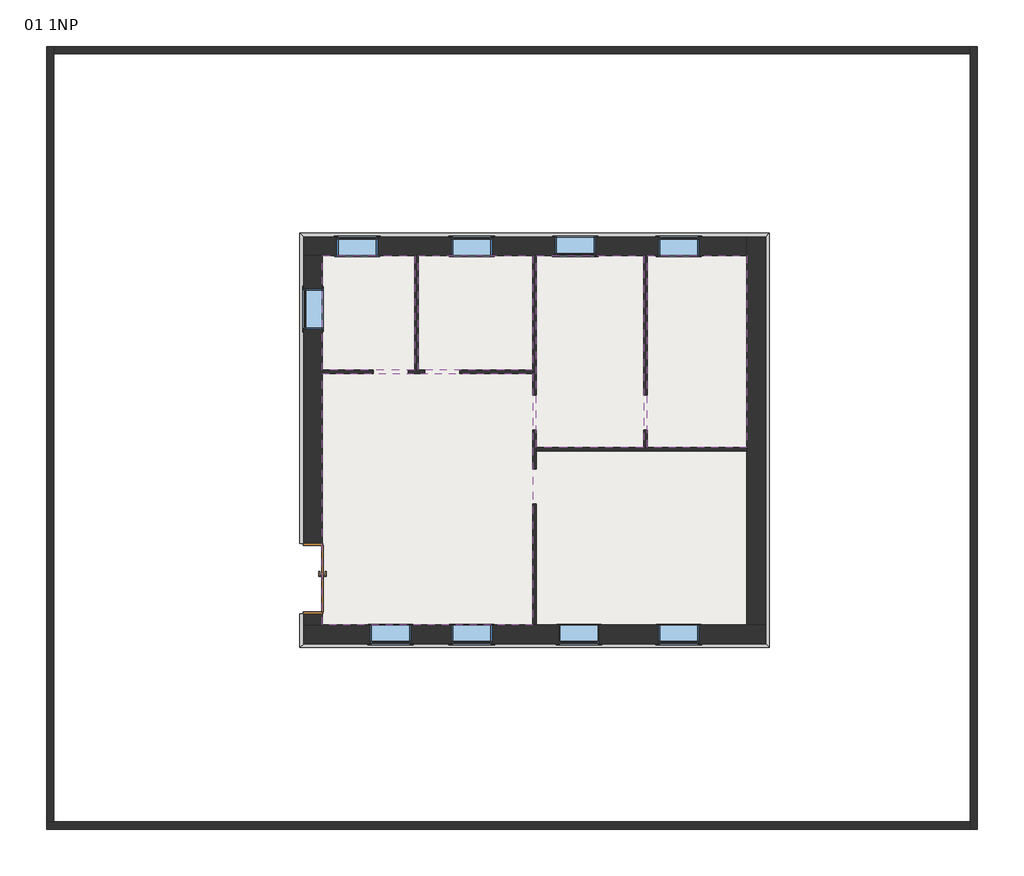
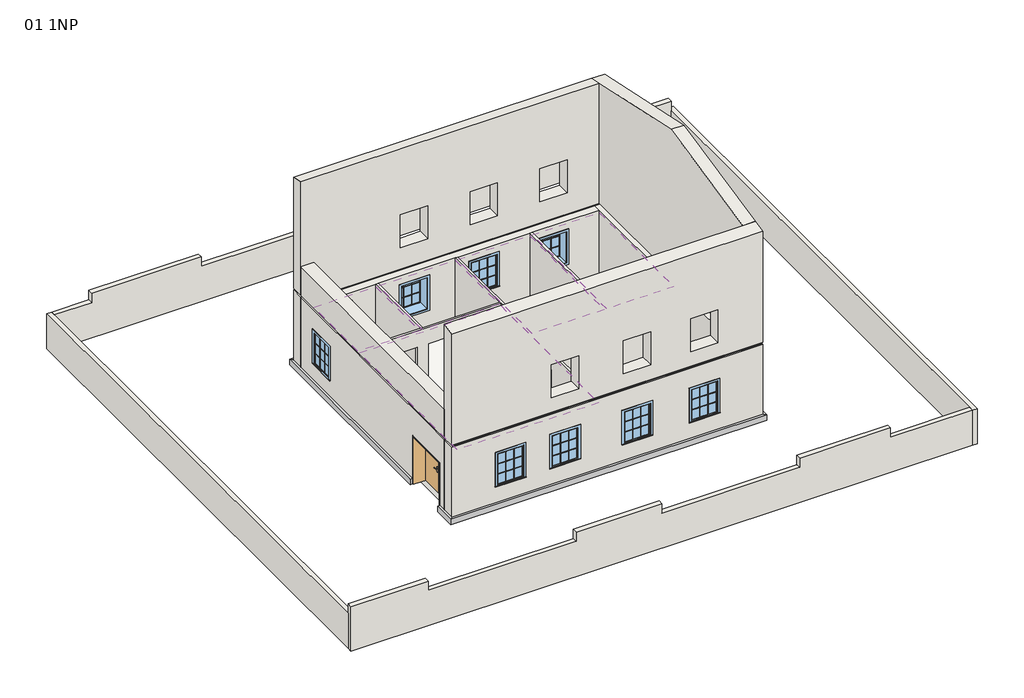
# One storey, incomplete: 13 walls, 9 windows, 6 coverings, 4 proxies, 1 door, 1 slab.
"""IFC4 building model written with IfcOpenShell, lengths in millimetres."""

from ifc_helpers import new_model, si_unit, frame, origin, origin_with_axes, place, context, project, spatial, polyline, outline, extrude, faceted_brep, transform, mapped, element, save
from components import door_1800_x_2000_2bd13d9d, m_casement_3x3_with_trim_1100x1400_47dc13a1, m_casement_3x3_with_trim_1100x1400_3cb4fc06

model = new_model("IFC4")

# Units and contexts
model_context = context("Model", 3, world=origin())
ifc_project = project(units=[si_unit("LENGTHUNIT", "METRE", prefix="MILLI")], contexts=[model_context])

# Site, building, storey
site = spatial("IfcSite", under=ifc_project)
building = spatial("IfcBuilding", under=site)
storey = spatial("IfcBuildingStorey", under=building, Name="01 1NP", Elevation=0.0)

# Proxies
placement = place(None, origin())
element("IfcBuildingElementProxy", 1, Name="Wall Sweeps", at=placement, inside=storey, context=model_context, shape_type="SweptSolid", body=[
    extrude(outline(polyline([(27580.9387685, 14249.5937321), (27683.4387685, 14352.0937321), (40193.4387685, 14352.0937321), (40295.9387685, 14249.5937321), (27580.9387685, 14249.5937321)])), origin_with_axes(), (0.0, 0.0, 1.0), 225.0),
])
element("IfcBuildingElementProxy", 2, Name="Wall Sweeps", at=placement, inside=storey, context=model_context, shape_type="Brep", body=[
    faceted_brep([(27580.9387685, 15167.0937321, 225.0), (27683.4387685, 15167.0937321, 225.0), (27683.4387685, 15167.0937321, 0.0), (27580.9387685, 15167.0937321, 0.0), (27580.9387685, 14249.5937321, 225.0), (27580.9387685, 14249.5937321, 0.0), (27683.4387685, 14352.0937321, 0.0), (27683.4387685, 14352.0937321, 225.0), (27683.4387685, 14862.0937321, 0.0)], [[[0, 1, 2, 3]], [[4, 5, 6, 7]], [[1, 0, 4, 7]], [[2, 1, 7, 6, 8]], [[3, 2, 8, 6, 5]], [[0, 3, 5, 4]]]),
    faceted_brep([(27580.9387685, 25474.5937321, 225.0), (27683.4387685, 25372.0937321, 225.0), (27683.4387685, 25372.0937321, 0.0), (27580.9387685, 25474.5937321, 0.0), (27580.9387685, 17067.0937321, 225.0), (27580.9387685, 17067.0937321, 0.0), (27683.4387685, 17067.0937321, 0.0), (27683.4387685, 17067.0937321, 225.0), (27683.4387685, 24862.0937321, 0.0)], [[[0, 1, 2, 3]], [[4, 5, 6, 7]], [[1, 0, 4, 7]], [[2, 1, 7, 6, 8]], [[3, 2, 8, 6, 5]], [[0, 3, 5, 4]]]),
])
element("IfcBuildingElementProxy", 3, Name="Wall Sweeps", at=placement, inside=storey, context=model_context, shape_type="Brep", body=[
    faceted_brep([(40295.9387685, 25474.5937321, 225.0), (40193.4387685, 25372.0937321, 225.0), (40193.4387685, 25372.0937321, 0.0), (40295.9387685, 25474.5937321, 0.0), (27580.9387685, 25474.5937321, 225.0), (27580.9387685, 25474.5937321, 0.0), (27683.4387685, 25372.0937321, 0.0), (27683.4387685, 25372.0937321, 225.0), (39683.4387685, 25372.0937321, 0.0)], [[[0, 1, 2, 3]], [[4, 5, 6, 7]], [[1, 0, 4, 7]], [[2, 1, 7, 6, 8]], [[3, 2, 8, 6, 5]], [[0, 3, 5, 4]]]),
])
element("IfcBuildingElementProxy", 4, Name="Wall Sweeps", at=placement, inside=storey, context=model_context, shape_type="Brep", body=[
    faceted_brep([(40295.9387685, 14249.5937321, 225.0), (40193.4387685, 14352.0937321, 225.0), (40193.4387685, 14352.0937321, 0.0), (40295.9387685, 14249.5937321, 0.0), (40295.9387685, 25474.5937321, 225.0), (40295.9387685, 25474.5937321, 0.0), (40193.4387685, 25372.0937321, 0.0), (40193.4387685, 25372.0937321, 225.0), (40193.4387685, 14862.0937321, 0.0)], [[[0, 1, 2, 3]], [[4, 5, 6, 7]], [[1, 0, 4, 7]], [[2, 1, 7, 6, 8]], [[3, 2, 8, 6, 5]], [[0, 3, 5, 4]]]),
])

# Coverings
element("IfcCovering", 5, ObjectType="Strop 1", at=placement, inside=storey, context=model_context, shape_type="SweptSolid", body=[
    extrude(outline(polyline([(30688.4387685, 21767.0937321), (28193.4387685, 21767.0937321), (28193.4387685, 24862.0937321), (30688.4387685, 24862.0937321), (30688.4387685, 21767.0937321)])), frame((0.0, 0.0, 2600.0), z_axis=(0.0, 0.0, 1.0), x_axis=(1.0, 0.0, 0.0)), (0.0, 0.0, 1.0), 100.0),
])
element("IfcCovering", 6, ObjectType="Strop 1", at=placement, inside=storey, context=model_context, shape_type="SweptSolid", body=[
    extrude(outline(polyline([(30688.4387685, 21767.0937321), (28193.4387685, 21767.0937321), (28193.4387685, 24862.0937321), (30688.4387685, 24862.0937321), (30688.4387685, 21767.0937321)])), frame((0.0, 0.0, 2600.0), z_axis=(0.0, 0.0, 1.0), x_axis=(1.0, 0.0, 0.0)), (0.0, 0.0, 1.0), 100.0),
])
element("IfcCovering", 7, ObjectType="Strop 1", at=placement, inside=storey, context=model_context, shape_type="SweptSolid", body=[
    extrude(outline(polyline([(30788.4387685, 21767.0937321), (30788.4387685, 24862.0937321), (33888.4387685, 24862.0937321), (33888.4387685, 21767.0937321), (30788.4387685, 21767.0937321)])), frame((0.0, 0.0, 2600.0), z_axis=(0.0, 0.0, 1.0), x_axis=(1.0, 0.0, 0.0)), (0.0, 0.0, 1.0), 100.0),
])
element("IfcCovering", 8, ObjectType="Strop 1", at=placement, inside=storey, context=model_context, shape_type="SweptSolid", body=[
    extrude(outline(polyline([(33988.4387685, 24862.0937321), (36888.4387685, 24862.0937321), (36888.4387685, 19667.0937321), (33988.4387685, 19667.0937321), (33988.4387685, 24862.0937321)])), frame((0.0, 0.0, 2600.0), z_axis=(0.0, 0.0, 1.0), x_axis=(1.0, 0.0, 0.0)), (0.0, 0.0, 1.0), 100.0),
])
element("IfcCovering", 9, ObjectType="Strop 1", at=placement, inside=storey, context=model_context, shape_type="SweptSolid", body=[
    extrude(outline(polyline([(36988.4387685, 24862.0937321), (39683.4387685, 24862.0937321), (39683.4387685, 19667.0937321), (36988.4387685, 19667.0937321), (36988.4387685, 24862.0937321)])), frame((0.0, 0.0, 2600.0), z_axis=(0.0, 0.0, 1.0), x_axis=(1.0, 0.0, 0.0)), (0.0, 0.0, 1.0), 100.0),
])
element("IfcCovering", 10, ObjectType="Strop 1", at=placement, inside=storey, context=model_context, shape_type="SweptSolid", body=[
    extrude(outline(polyline([(33888.4387685, 21667.0937321), (33888.4387685, 14862.0937321), (28193.4387685, 14862.0937321), (28193.4387685, 21667.0937321), (33888.4387685, 21667.0937321)])), frame((0.0, 0.0, 2600.0), z_axis=(0.0, 0.0, 1.0), x_axis=(1.0, 0.0, 0.0)), (0.0, 0.0, 1.0), 100.0),
])

# Door
door_1800_x_2000_shape = door_1800_x_2000_2bd13d9d(model_context)
element("IfcDoor", 11, ObjectType="Dvoukridle oboustrana zaruben : 1800 x 2000", at=placement, inside=storey, context=model_context, shape_type="MappedRepresentation", body=[
    mapped(door_1800_x_2000_shape, transform((27938.4387685, 16097.0937321, 0.0), x_axis=(0.0, -1.0, 0.0), y_axis=(1.0, 0.0, 0.0), z_axis=(0.0, 0.0, 1.0))),
])

# Slab
element("IfcSlab", 12, ObjectType="Standardní 300 mm", at=placement, inside=storey, context=model_context, shape_type="SweptSolid", body=[
    extrude(outline(polyline([(28183.4387685, 14852.0937321), (28183.4387685, 24872.0937321), (39693.4387685, 24872.0937321), (39693.4387685, 14852.0937321), (28183.4387685, 14852.0937321)])), frame((0.0, 0.0, -300.0), z_axis=(0.0, 0.0, 1.0), x_axis=(1.0, 0.0, 0.0)), (0.0, 0.0, 1.0), 300.0),
])

# Walls
element("IfcWall", 13, ObjectType="SENDWIX L 510mm se soklem", at=placement, inside=storey, context=model_context, shape_type="Brep", body=[
    faceted_brep([(27683.4387685, 14352.0937321, 0.0), (40193.4387685, 14352.0937321, 0.0), (40193.4387685, 14352.0937321, 225.0), (40193.4387685, 14352.0937321, 3200.0), (27683.4387685, 14352.0937321, 3200.0), (27683.4387685, 14352.0937321, 225.0), (30588.4387685, 14352.0937321, 900.0), (29488.4387685, 14352.0937321, 900.0), (29488.4387685, 14352.0937321, 2300.0), (30588.4387685, 14352.0937321, 2300.0), (31688.4387685, 14352.0937321, 900.0), (31688.4387685, 14352.0937321, 2300.0), (32788.4387685, 14352.0937321, 2300.0), (32788.4387685, 14352.0937321, 900.0), (34588.4387685, 14352.0937321, 900.0), (34588.4387685, 14352.0937321, 2300.0), (35688.4387685, 14352.0937321, 2300.0), (35688.4387685, 14352.0937321, 900.0), (37288.4387685, 14352.0937321, 900.0), (37288.4387685, 14352.0937321, 2300.0), (38388.4387685, 14352.0937321, 2300.0), (38388.4387685, 14352.0937321, 900.0), (40193.4387685, 14352.0937321, 8000.0), (27683.4387685, 14352.0937321, 8000.0), (27683.4387685, 14352.0937321, 3275.0), (40193.4387685, 14352.0937321, 3275.0), (31688.4387685, 14352.0937321, 3900.0), (31688.4387685, 14352.0937321, 5300.0), (32788.4387685, 14352.0937321, 5300.0), (32788.4387685, 14352.0937321, 3900.0), (34588.4387685, 14352.0937321, 3900.0), (34588.4387685, 14352.0937321, 5300.0), (35688.4387685, 14352.0937321, 5300.0), (35688.4387685, 14352.0937321, 3900.0), (37288.4387685, 14352.0937321, 3900.0), (37288.4387685, 14352.0937321, 5300.0), (38388.4387685, 14352.0937321, 5300.0), (38388.4387685, 14352.0937321, 3900.0), (40193.4387685, 14862.0937321, 0.0), (39683.4387685, 14862.0937321, 0.0), (33988.4387685, 14862.0937321, 0.0), (33888.4387685, 14862.0937321, 0.0), (28193.4387685, 14862.0937321, 0.0), (27683.4387685, 14862.0937321, 0.0), (27683.4387685, 14862.0937321, 225.0), (27683.4387685, 14862.0937321, 3200.0), (27728.4387685, 14862.0937321, 3200.0), (27728.4387685, 14862.0937321, 3275.0), (27683.4387685, 14862.0937321, 3275.0), (27683.4387685, 14862.0937321, 4500.0), (27683.4387685, 14862.0937321, 8108.4038465), (39683.4387685, 14862.0937321, 8108.4038465), (40193.4387685, 14862.0937321, 8108.4038465), (40193.4387685, 14862.0937321, 3275.0), (40148.4387685, 14862.0937321, 3275.0), (40148.4387685, 14862.0937321, 3200.0), (40193.4387685, 14862.0937321, 3200.0), (40193.4387685, 14862.0937321, 225.0), (29488.4387685, 14862.0937321, 900.0), (30588.4387685, 14862.0937321, 900.0), (30588.4387685, 14862.0937321, 2300.0), (29488.4387685, 14862.0937321, 2300.0), (31688.4387685, 14862.0937321, 2300.0), (31688.4387685, 14862.0937321, 900.0), (32788.4387685, 14862.0937321, 900.0), (32788.4387685, 14862.0937321, 2300.0), (34588.4387685, 14862.0937321, 2300.0), (34588.4387685, 14862.0937321, 900.0), (35688.4387685, 14862.0937321, 900.0), (35688.4387685, 14862.0937321, 2300.0), (37288.4387685, 14862.0937321, 2300.0), (37288.4387685, 14862.0937321, 900.0), (38388.4387685, 14862.0937321, 900.0), (38388.4387685, 14862.0937321, 2300.0), (31688.4387685, 14862.0937321, 5300.0), (31688.4387685, 14862.0937321, 3900.0), (32788.4387685, 14862.0937321, 3900.0), (32788.4387685, 14862.0937321, 5300.0), (34588.4387685, 14862.0937321, 5300.0), (34588.4387685, 14862.0937321, 3900.0), (35688.4387685, 14862.0937321, 3900.0), (35688.4387685, 14862.0937321, 5300.0), (37288.4387685, 14862.0937321, 5300.0), (37288.4387685, 14862.0937321, 3900.0), (38388.4387685, 14862.0937321, 3900.0), (38388.4387685, 14862.0937321, 5300.0), (27883.4387685, 14862.0937321, 2700.0), (28193.4387685, 14862.0937321, 2700.0), (33888.4387685, 14862.0937321, 2700.0), (33988.4387685, 14862.0937321, 2700.0), (39683.4387685, 14862.0937321, 2700.0), (39993.4387685, 14862.0937321, 2700.0), (39993.4387685, 14862.0937321, 3000.0), (39683.4387685, 14862.0937321, 3000.0), (28193.4387685, 14862.0937321, 3000.0), (27883.4387685, 14862.0937321, 3000.0), (27883.4387685, 14552.0937321, 2700.0), (39993.4387685, 14552.0937321, 2700.0), (39993.4387685, 14552.0937321, 3000.0), (27883.4387685, 14552.0937321, 3000.0), (27728.4387685, 14397.0937321, 3200.0), (27728.4387685, 14397.0937321, 3275.0), (40148.4387685, 14397.0937321, 3200.0), (40148.4387685, 14397.0937321, 3275.0)], [[[0, 1, 2, 3, 4, 5], [6, 7, 8, 9], [10, 11, 12, 13], [14, 15, 16, 17], [18, 19, 20, 21]], [[22, 23, 24, 25], [26, 27, 28, 29], [30, 31, 32, 33], [34, 35, 36, 37]], [[38, 39, 40, 41, 42, 43, 44, 45, 46, 47, 48, 49, 50, 51, 52, 53, 54, 55, 56, 57], [58, 59, 60, 61], [62, 63, 64, 65], [66, 67, 68, 69], [70, 71, 72, 73], [74, 75, 76, 77], [78, 79, 80, 81], [82, 83, 84, 85], [86, 87, 88, 89, 90, 91, 92, 93, 94, 95]], [[1, 0, 43, 42, 41, 40, 39, 38]], [[43, 0, 5, 4, 45, 44]], [[23, 50, 49, 48, 24]], [[1, 38, 57, 56, 3, 2]], [[52, 22, 25, 53]], [[23, 22, 52, 51, 50]], [[59, 6, 9, 60]], [[6, 59, 58, 7]], [[7, 58, 61, 8]], [[8, 61, 60, 9]], [[63, 62, 11, 10]], [[64, 63, 10, 13]], [[65, 64, 13, 12]], [[62, 65, 12, 11]], [[67, 66, 15, 14]], [[68, 67, 14, 17]], [[69, 68, 17, 16]], [[66, 69, 16, 15]], [[71, 70, 19, 18]], [[72, 71, 18, 21]], [[73, 72, 21, 20]], [[70, 73, 20, 19]], [[75, 74, 27, 26]], [[76, 75, 26, 29]], [[77, 76, 29, 28]], [[74, 77, 28, 27]], [[79, 78, 31, 30]], [[80, 79, 30, 33]], [[81, 80, 33, 32]], [[78, 81, 32, 31]], [[83, 82, 35, 34]], [[84, 83, 34, 37]], [[85, 84, 37, 36]], [[82, 85, 36, 35]], [[96, 97, 91, 90, 89, 88, 87, 86]], [[98, 99, 95, 94, 93, 92]], [[99, 96, 86, 95]], [[97, 98, 92, 91]], [[97, 96, 99, 98]], [[100, 101, 47, 46]], [[102, 100, 46, 45, 4, 3, 56, 55]], [[101, 103, 54, 53, 25, 24, 48, 47]], [[101, 100, 102, 103]], [[103, 102, 55, 54]]]),
])
element("IfcWall", 14, ObjectType="SENDWIX L 510mm se soklem", at=placement, inside=storey, context=model_context, shape_type="Brep", body=[
    faceted_brep([(27683.4387685, 14862.0937321, 4500.0), (27683.4387685, 24862.0937321, 4500.0), (27683.4387685, 24862.0937321, 3275.0), (27683.4387685, 14862.0937321, 3275.0), (27683.4387685, 17067.0937321, 2050.0), (27683.4387685, 15167.0937321, 2050.0), (27683.4387685, 15167.0937321, 225.0), (27683.4387685, 15167.0937321, 0.0), (27683.4387685, 14862.0937321, 0.0), (27683.4387685, 14862.0937321, 225.0), (27683.4387685, 14862.0937321, 3200.0), (27683.4387685, 24862.0937321, 3200.0), (27683.4387685, 24862.0937321, 225.0), (27683.4387685, 24862.0937321, 0.0), (27683.4387685, 17067.0937321, 0.0), (27683.4387685, 17067.0937321, 225.0), (27683.4387685, 23967.0937321, 900.0), (27683.4387685, 23967.0937321, 2300.0), (27683.4387685, 22867.0937321, 2300.0), (27683.4387685, 22867.0937321, 900.0), (28193.4387685, 24862.0937321, 4500.0), (28193.4387685, 14862.0937321, 4500.0), (28193.4387685, 14862.0937321, 3000.0), (28193.4387685, 24862.0937321, 3000.0), (28193.4387685, 15167.0937321, 0.0), (28193.4387685, 15167.0937321, 2050.0), (28193.4387685, 17067.0937321, 2050.0), (28193.4387685, 17067.0937321, 0.0), (28193.4387685, 21667.0937321, 0.0), (28193.4387685, 21767.0937321, 0.0), (28193.4387685, 24862.0937321, 0.0), (28193.4387685, 24862.0937321, 2700.0), (28193.4387685, 21767.0937321, 2700.0), (28193.4387685, 21667.0937321, 2700.0), (28193.4387685, 14862.0937321, 2700.0), (28193.4387685, 14862.0937321, 0.0), (28193.4387685, 23967.0937321, 2300.0), (28193.4387685, 23967.0937321, 900.0), (28193.4387685, 22867.0937321, 900.0), (28193.4387685, 22867.0937321, 2300.0), (27883.4387685, 24862.0937321, 3000.0), (27883.4387685, 24862.0937321, 2700.0), (27728.4387685, 24862.0937321, 3200.0), (27728.4387685, 24862.0937321, 3275.0), (27883.4387685, 14862.0937321, 2700.0), (27883.4387685, 14862.0937321, 3000.0), (27728.4387685, 14862.0937321, 3275.0), (27728.4387685, 14862.0937321, 3200.0)], [[[0, 1, 2, 3]], [[4, 5, 6, 7, 8, 9, 10, 11, 12, 13, 14, 15], [16, 17, 18, 19]], [[20, 21, 22, 23]], [[24, 25, 26, 27, 28, 29, 30, 31, 32, 33, 34, 35], [36, 37, 38, 39]], [[13, 30, 29, 28, 27, 14]], [[35, 8, 7, 24]], [[1, 0, 21, 20]], [[1, 20, 23, 40, 41, 31, 30, 13, 12, 11, 42, 43, 2]], [[8, 35, 34, 44, 45, 22, 21, 0, 3, 46, 47, 10, 9]], [[25, 24, 7, 6, 5]], [[26, 25, 5, 4]], [[27, 26, 4, 15, 14]], [[37, 36, 17, 16]], [[38, 37, 16, 19]], [[39, 38, 19, 18]], [[36, 39, 18, 17]], [[41, 44, 34, 33, 32, 31]], [[45, 40, 23, 22]], [[44, 41, 40, 45]], [[47, 42, 11, 10]], [[43, 46, 3, 2]], [[42, 47, 46, 43]]]),
])
element("IfcWall", 15, ObjectType="SENDWIX L 510mm se soklem", at=placement, inside=storey, context=model_context, shape_type="Brep", body=[
    faceted_brep([(39683.4387685, 25372.0937321, 0.0), (27683.4387685, 25372.0937321, 0.0), (27683.4387685, 25372.0937321, 225.0), (27683.4387685, 25372.0937321, 3200.0), (39683.4387685, 25372.0937321, 3200.0), (39683.4387685, 25372.0937321, 225.0), (28588.4387685, 25372.0937321, 900.0), (29688.4387685, 25372.0937321, 900.0), (29688.4387685, 25372.0937321, 2300.0), (28588.4387685, 25372.0937321, 2300.0), (31688.4387685, 25372.0937321, 2300.0), (31688.4387685, 25372.0937321, 900.0), (32788.4387685, 25372.0937321, 900.0), (32788.4387685, 25372.0937321, 2300.0), (34488.4387685, 25372.0937321, 2300.0), (34488.4387685, 25372.0937321, 900.0), (35588.4387685, 25372.0937321, 900.0), (35588.4387685, 25372.0937321, 2300.0), (37288.4387685, 25372.0937321, 2300.0), (37288.4387685, 25372.0937321, 900.0), (38388.4387685, 25372.0937321, 900.0), (38388.4387685, 25372.0937321, 2300.0), (27683.4387685, 25372.0937321, 8000.0), (39683.4387685, 25372.0937321, 8000.0), (39683.4387685, 25372.0937321, 3275.0), (27683.4387685, 25372.0937321, 3275.0), (31688.4387685, 25372.0937321, 5300.0), (31688.4387685, 25372.0937321, 3900.0), (32788.4387685, 25372.0937321, 3900.0), (32788.4387685, 25372.0937321, 5300.0), (34488.4387685, 25372.0937321, 5300.0), (34488.4387685, 25372.0937321, 3900.0), (35588.4387685, 25372.0937321, 3900.0), (35588.4387685, 25372.0937321, 5300.0), (37288.4387685, 25372.0937321, 5300.0), (37288.4387685, 25372.0937321, 3900.0), (38388.4387685, 25372.0937321, 3900.0), (38388.4387685, 25372.0937321, 5300.0), (27683.4387685, 24862.0937321, 0.0), (28193.4387685, 24862.0937321, 0.0), (30688.4387685, 24862.0937321, 0.0), (30788.4387685, 24862.0937321, 0.0), (33888.4387685, 24862.0937321, 0.0), (33988.4387685, 24862.0937321, 0.0), (36888.4387685, 24862.0937321, 0.0), (36988.4387685, 24862.0937321, 0.0), (39683.4387685, 24862.0937321, 0.0), (39683.4387685, 24862.0937321, 2700.0), (36988.4387685, 24862.0937321, 2700.0), (36888.4387685, 24862.0937321, 2700.0), (33988.4387685, 24862.0937321, 2700.0), (33888.4387685, 24862.0937321, 2700.0), (30788.4387685, 24862.0937321, 2700.0), (30688.4387685, 24862.0937321, 2700.0), (28193.4387685, 24862.0937321, 2700.0), (27883.4387685, 24862.0937321, 2700.0), (27883.4387685, 24862.0937321, 3000.0), (28193.4387685, 24862.0937321, 3000.0), (39683.4387685, 24862.0937321, 3000.0), (39683.4387685, 24862.0937321, 8108.4038465), (27683.4387685, 24862.0937321, 8108.4038465), (27683.4387685, 24862.0937321, 4500.0), (27683.4387685, 24862.0937321, 3275.0), (27728.4387685, 24862.0937321, 3275.0), (27728.4387685, 24862.0937321, 3200.0), (27683.4387685, 24862.0937321, 3200.0), (27683.4387685, 24862.0937321, 225.0), (29688.4387685, 24862.0937321, 900.0), (28588.4387685, 24862.0937321, 900.0), (28588.4387685, 24862.0937321, 2300.0), (29688.4387685, 24862.0937321, 2300.0), (31688.4387685, 24862.0937321, 900.0), (31688.4387685, 24862.0937321, 2300.0), (32788.4387685, 24862.0937321, 2300.0), (32788.4387685, 24862.0937321, 900.0), (34488.4387685, 24862.0937321, 900.0), (34488.4387685, 24862.0937321, 2300.0), (35588.4387685, 24862.0937321, 2300.0), (35588.4387685, 24862.0937321, 900.0), (37288.4387685, 24862.0937321, 900.0), (37288.4387685, 24862.0937321, 2300.0), (38388.4387685, 24862.0937321, 2300.0), (38388.4387685, 24862.0937321, 900.0), (31688.4387685, 24862.0937321, 3900.0), (31688.4387685, 24862.0937321, 5300.0), (32788.4387685, 24862.0937321, 5300.0), (32788.4387685, 24862.0937321, 3900.0), (34488.4387685, 24862.0937321, 3900.0), (34488.4387685, 24862.0937321, 5300.0), (35588.4387685, 24862.0937321, 5300.0), (35588.4387685, 24862.0937321, 3900.0), (37288.4387685, 24862.0937321, 3900.0), (37288.4387685, 24862.0937321, 5300.0), (38388.4387685, 24862.0937321, 5300.0), (38388.4387685, 24862.0937321, 3900.0), (39683.4387685, 25327.0937321, 3200.0), (39683.4387685, 25327.0937321, 3275.0), (39683.4387685, 25172.0937321, 3000.0), (39683.4387685, 25172.0937321, 2700.0), (27883.4387685, 25172.0937321, 2700.0), (27883.4387685, 25172.0937321, 3000.0), (27728.4387685, 25327.0937321, 3200.0), (27728.4387685, 25327.0937321, 3275.0)], [[[0, 1, 2, 3, 4, 5], [6, 7, 8, 9], [10, 11, 12, 13], [14, 15, 16, 17], [18, 19, 20, 21]], [[22, 23, 24, 25], [26, 27, 28, 29], [30, 31, 32, 33], [34, 35, 36, 37]], [[38, 39, 40, 41, 42, 43, 44, 45, 46, 47, 48, 49, 50, 51, 52, 53, 54, 55, 56, 57, 58, 59, 60, 61, 62, 63, 64, 65, 66], [67, 68, 69, 70], [71, 72, 73, 74], [75, 76, 77, 78], [79, 80, 81, 82], [83, 84, 85, 86], [87, 88, 89, 90], [91, 92, 93, 94]], [[1, 0, 46, 45, 44, 43, 42, 41, 40, 39, 38]], [[1, 38, 66, 65, 3, 2]], [[60, 22, 25, 62, 61]], [[46, 0, 5, 4, 95, 96, 24, 23, 59, 58, 97, 98, 47]], [[23, 22, 60, 59]], [[7, 67, 70, 8]], [[67, 7, 6, 68]], [[68, 6, 9, 69]], [[69, 9, 8, 70]], [[11, 10, 72, 71]], [[12, 11, 71, 74]], [[13, 12, 74, 73]], [[10, 13, 73, 72]], [[15, 14, 76, 75]], [[16, 15, 75, 78]], [[17, 16, 78, 77]], [[14, 17, 77, 76]], [[19, 18, 80, 79]], [[20, 19, 79, 82]], [[21, 20, 82, 81]], [[18, 21, 81, 80]], [[27, 26, 84, 83]], [[28, 27, 83, 86]], [[29, 28, 86, 85]], [[26, 29, 85, 84]], [[31, 30, 88, 87]], [[32, 31, 87, 90]], [[33, 32, 90, 89]], [[30, 33, 89, 88]], [[35, 34, 92, 91]], [[36, 35, 91, 94]], [[37, 36, 94, 93]], [[34, 37, 93, 92]], [[98, 99, 55, 54, 53, 52, 51, 50, 49, 48, 47]], [[56, 100, 97, 58, 57]], [[99, 100, 56, 55]], [[100, 99, 98, 97]], [[64, 101, 95, 4, 3, 65]], [[96, 102, 63, 62, 25, 24]], [[101, 102, 96, 95]], [[102, 101, 64, 63]]]),
])
element("IfcWall", 16, ObjectType="SENDWIX L 510mm se soklem", at=placement, inside=storey, context=model_context, shape_type="Brep", body=[
    faceted_brep([(40193.4387685, 14862.0937321, 0.0), (40193.4387685, 25372.0937321, 0.0), (40193.4387685, 25372.0937321, 225.0), (40193.4387685, 25372.0937321, 3200.0), (40193.4387685, 14862.0937321, 3200.0), (40193.4387685, 14862.0937321, 225.0), (40193.4387685, 25372.0937321, 8000.0), (40193.4387685, 19862.0937321, 9171.1866548), (40193.4387685, 14862.0937321, 8108.4038465), (40193.4387685, 14862.0937321, 3275.0), (40193.4387685, 25372.0937321, 3275.0), (39683.4387685, 25372.0937321, 0.0), (39683.4387685, 24862.0937321, 0.0), (39683.4387685, 19667.0937321, 0.0), (39683.4387685, 19567.0937321, 0.0), (39683.4387685, 14862.0937321, 0.0), (39683.4387685, 14862.0937321, 2700.0), (39683.4387685, 19567.0937321, 2700.0), (39683.4387685, 19667.0937321, 2700.0), (39683.4387685, 24862.0937321, 2700.0), (39683.4387685, 25172.0937321, 2700.0), (39683.4387685, 25172.0937321, 3000.0), (39683.4387685, 24862.0937321, 3000.0), (39683.4387685, 14862.0937321, 3000.0), (39683.4387685, 14862.0937321, 8108.4038465), (39683.4387685, 19862.0937321, 9171.1866548), (39683.4387685, 24862.0937321, 8108.4038465), (39683.4387685, 25372.0937321, 8000.0), (39683.4387685, 25372.0937321, 3275.0), (39683.4387685, 25327.0937321, 3275.0), (39683.4387685, 25327.0937321, 3200.0), (39683.4387685, 25372.0937321, 3200.0), (39683.4387685, 25372.0937321, 225.0), (39993.4387685, 14862.0937321, 3000.0), (39993.4387685, 14862.0937321, 2700.0), (40148.4387685, 14862.0937321, 3200.0), (40148.4387685, 14862.0937321, 3275.0), (39993.4387685, 25172.0937321, 2700.0), (39993.4387685, 25172.0937321, 3000.0), (40148.4387685, 25327.0937321, 3200.0), (40148.4387685, 25327.0937321, 3275.0)], [[[0, 1, 2, 3, 4, 5]], [[6, 7, 8, 9, 10]], [[11, 12, 13, 14, 15, 16, 17, 18, 19, 20, 21, 22, 23, 24, 25, 26, 27, 28, 29, 30, 31, 32]], [[1, 0, 15, 14, 13, 12, 11]], [[1, 11, 32, 31, 3, 2]], [[27, 6, 10, 28]], [[8, 24, 23, 33, 34, 16, 15, 0, 5, 4, 35, 36, 9]], [[24, 8, 7, 25]], [[6, 27, 26, 25, 7]], [[34, 37, 20, 19, 18, 17, 16]], [[21, 38, 33, 23, 22]], [[37, 38, 21, 20]], [[38, 37, 34, 33]], [[30, 39, 35, 4, 3, 31]], [[36, 40, 29, 28, 10, 9]], [[39, 40, 36, 35]], [[40, 39, 30, 29]]]),
])
element("IfcWall", 17, ObjectType="Standardní 100mm", at=placement, inside=storey, context=model_context, shape_type="Brep", body=[
    faceted_brep([(33988.4387685, 14862.0937321, 0.0), (33988.4387685, 18142.0937321, 0.0), (33988.4387685, 18142.0937321, 2020.0), (33988.4387685, 19092.0937321, 2020.0), (33988.4387685, 19092.0937321, 0.0), (33988.4387685, 19567.0937321, 0.0), (33988.4387685, 19667.0937321, 0.0), (33988.4387685, 20142.0937321, 0.0), (33988.4387685, 20142.0937321, 2020.0), (33988.4387685, 21092.0937321, 2020.0), (33988.4387685, 21092.0937321, 0.0), (33988.4387685, 24862.0937321, 0.0), (33988.4387685, 24862.0937321, 2700.0), (33988.4387685, 19667.0937321, 2700.0), (33988.4387685, 19567.0937321, 2700.0), (33988.4387685, 14862.0937321, 2700.0), (33888.4387685, 18142.0937321, 2020.0), (33888.4387685, 18142.0937321, 0.0), (33888.4387685, 14862.0937321, 0.0), (33888.4387685, 14862.0937321, 2700.0), (33888.4387685, 21667.0937321, 2700.0), (33888.4387685, 21767.0937321, 2700.0), (33888.4387685, 24862.0937321, 2700.0), (33888.4387685, 24862.0937321, 0.0), (33888.4387685, 21767.0937321, 0.0), (33888.4387685, 21667.0937321, 0.0), (33888.4387685, 21092.0937321, 0.0), (33888.4387685, 21092.0937321, 2020.0), (33888.4387685, 20142.0937321, 2020.0), (33888.4387685, 20142.0937321, 0.0), (33888.4387685, 19092.0937321, 0.0), (33888.4387685, 19092.0937321, 2020.0)], [[[0, 1, 2, 3, 4, 5, 6, 7, 8, 9, 10, 11, 12, 13, 14, 15]], [[16, 17, 18, 19, 20, 21, 22, 23, 24, 25, 26, 27, 28, 29, 30, 31]], [[11, 10, 26, 25, 24, 23]], [[18, 17, 1, 0]], [[30, 29, 7, 6, 5, 4]], [[0, 15, 19, 18]], [[12, 11, 23, 22]], [[15, 14, 13, 12, 22, 21, 20, 19]], [[27, 26, 10, 9]], [[28, 27, 9, 8]], [[29, 28, 8, 7]], [[2, 1, 17, 16]], [[3, 2, 16, 31]], [[4, 3, 31, 30]]]),
])
element("IfcWall", 18, ObjectType="Standardní 100mm", at=placement, inside=storey, context=model_context, shape_type="Brep", body=[
    faceted_brep([(33988.4387685, 19567.0937321, 0.0), (39683.4387685, 19567.0937321, 0.0), (39683.4387685, 19567.0937321, 2700.0), (33988.4387685, 19567.0937321, 2700.0), (33988.4387685, 19667.0937321, 0.0), (33988.4387685, 19667.0937321, 2700.0), (36888.4387685, 19667.0937321, 2700.0), (36988.4387685, 19667.0937321, 2700.0), (39683.4387685, 19667.0937321, 2700.0), (39683.4387685, 19667.0937321, 0.0), (36988.4387685, 19667.0937321, 0.0), (36888.4387685, 19667.0937321, 0.0)], [[[0, 1, 2, 3]], [[4, 5, 6, 7, 8, 9, 10, 11]], [[1, 0, 4, 11, 10, 9]], [[2, 1, 9, 8]], [[0, 3, 5, 4]], [[3, 2, 8, 7, 6, 5]]]),
])
element("IfcWall", 19, ObjectType="Standardní 100mm", at=placement, inside=storey, context=model_context, shape_type="Brep", body=[
    faceted_brep([(31913.4387685, 21667.0937321, 2020.0), (31913.4387685, 21667.0937321, 0.0), (33888.4387685, 21667.0937321, 0.0), (33888.4387685, 21667.0937321, 2700.0), (28193.4387685, 21667.0937321, 2700.0), (28193.4387685, 21667.0937321, 0.0), (29563.4387685, 21667.0937321, 0.0), (29563.4387685, 21667.0937321, 2020.0), (30513.4387685, 21667.0937321, 2020.0), (30513.4387685, 21667.0937321, 0.0), (30963.4387685, 21667.0937321, 0.0), (30963.4387685, 21667.0937321, 2020.0), (33888.4387685, 21767.0937321, 0.0), (31913.4387685, 21767.0937321, 0.0), (31913.4387685, 21767.0937321, 2020.0), (30963.4387685, 21767.0937321, 2020.0), (30963.4387685, 21767.0937321, 0.0), (30788.4387685, 21767.0937321, 0.0), (30688.4387685, 21767.0937321, 0.0), (30513.4387685, 21767.0937321, 0.0), (30513.4387685, 21767.0937321, 2020.0), (29563.4387685, 21767.0937321, 2020.0), (29563.4387685, 21767.0937321, 0.0), (28193.4387685, 21767.0937321, 0.0), (28193.4387685, 21767.0937321, 2700.0), (30688.4387685, 21767.0937321, 2700.0), (30788.4387685, 21767.0937321, 2700.0), (33888.4387685, 21767.0937321, 2700.0)], [[[0, 1, 2, 3, 4, 5, 6, 7, 8, 9, 10, 11]], [[12, 13, 14, 15, 16, 17, 18, 19, 20, 21, 22, 23, 24, 25, 26, 27]], [[23, 22, 6, 5]], [[2, 1, 13, 12]], [[10, 9, 19, 18, 17, 16]], [[5, 4, 24, 23]], [[3, 2, 12, 27]], [[4, 3, 27, 26, 25, 24]], [[7, 6, 22, 21]], [[8, 7, 21, 20]], [[9, 8, 20, 19]], [[14, 13, 1, 0]], [[15, 14, 0, 11]], [[16, 15, 11, 10]]]),
])
element("IfcWall", 20, ObjectType="Standardní 100mm", at=placement, inside=storey, context=model_context, shape_type="SweptSolid", body=[
    extrude(outline(polyline([(30688.4387685, 21767.0937321), (30688.4387685, 24862.0937321), (30788.4387685, 24862.0937321), (30788.4387685, 21767.0937321), (30688.4387685, 21767.0937321)])), origin_with_axes(), (0.0, 0.0, 1.0), 2700.0),
])
element("IfcWall", 21, ObjectType="Standardní 100mm", at=placement, inside=storey, context=model_context, shape_type="SweptSolid", body=[
    extrude(outline(polyline([(24862.0937321, 0.0), (21092.0937321, 0.0), (21092.0937321, 2020.0), (20142.0937321, 2020.0), (20142.0937321, 0.0), (19667.0937321, 0.0), (19667.0937321, 2700.0), (24862.0937321, 2700.0), (24862.0937321, 0.0)])), frame((36888.4387685, 0.0, 0.0), z_axis=(1.0, 0.0, 0.0), x_axis=(0.0, 1.0, 0.0)), (0.0, 0.0, 1.0), 100.0),
])
element("IfcWall", 22, ObjectType="Standardní 200mm", at=placement, inside=storey, context=model_context, shape_type="Brep", body=[
    faceted_brep([(20725.9805266, 9328.6746837, 0.0), (45725.9805266, 9328.6746837, 0.0), (45725.9805266, 9328.6746837, 1500.0), (42425.9805266, 9328.6746837, 1500.0), (42425.9805266, 9328.6746837, 1900.0), (38769.4032946, 9328.6746837, 1900.0), (38769.4032946, 9328.6746837, 1500.0), (33236.1851019, 9328.6746837, 1500.0), (33236.1851019, 9328.6746837, 1900.0), (29781.1194066, 9328.6746837, 1900.0), (29781.1194066, 9328.6746837, 1500.0), (23838.5703533, 9328.6746837, 1500.0), (23838.5703533, 9328.6746837, 1900.0), (20725.9805266, 9328.6746837, 1900.0), (20725.9805266, 9528.6746837, 0.0), (20725.9805266, 9528.6746837, 1500.0), (20725.9805266, 9528.6746837, 1900.0), (23838.5703533, 9528.6746837, 1900.0), (23838.5703533, 9528.6746837, 1500.0), (29781.1194066, 9528.6746837, 1500.0), (29781.1194066, 9528.6746837, 1900.0), (33236.1851019, 9528.6746837, 1900.0), (33236.1851019, 9528.6746837, 1500.0), (38769.4032946, 9528.6746837, 1500.0), (38769.4032946, 9528.6746837, 1900.0), (42425.9805266, 9528.6746837, 1900.0), (42425.9805266, 9528.6746837, 1500.0), (45725.9805266, 9528.6746837, 1500.0), (45725.9805266, 9528.6746837, 0.0), (20925.9805266, 9528.6746837, 0.0)], [[[0, 1, 2, 3, 4, 5, 6, 7, 8, 9, 10, 11, 12, 13]], [[14, 15, 16, 17, 18, 19, 20, 21, 22, 23, 24, 25, 26, 27, 28, 29]], [[1, 0, 14, 29, 28]], [[3, 2, 27, 26]], [[4, 3, 26, 25]], [[5, 4, 25, 24]], [[6, 5, 24, 23]], [[7, 6, 23, 22]], [[8, 7, 22, 21]], [[9, 8, 21, 20]], [[10, 9, 20, 19]], [[11, 10, 19, 18]], [[12, 11, 18, 17]], [[13, 12, 17, 16]], [[0, 13, 16, 15, 14]], [[2, 1, 28, 27]]]),
])
element("IfcWall", 23, ObjectType="Standardní 200mm", at=placement, inside=storey, context=model_context, shape_type="Brep", body=[
    faceted_brep([(20725.9805266, 30528.6746837, 0.0), (20725.9805266, 9528.6746837, 0.0), (20725.9805266, 9528.6746837, 1500.0), (20725.9805266, 30528.6746837, 1500.0), (20925.9805266, 30528.6746837, 0.0), (20925.9805266, 30528.6746837, 1500.0), (20925.9805266, 30328.6746837, 1500.0), (20925.9805266, 9528.6746837, 1500.0), (20925.9805266, 9528.6746837, 0.0), (20925.9805266, 30328.6746837, 0.0)], [[[0, 1, 2, 3]], [[4, 5, 6, 7, 8, 9]], [[1, 0, 4, 9, 8]], [[3, 2, 7, 6, 5]], [[0, 3, 5, 4]], [[2, 1, 8, 7]]]),
])
element("IfcWall", 24, ObjectType="Standardní 200mm", at=placement, inside=storey, context=model_context, shape_type="Brep", body=[
    faceted_brep([(45725.9805266, 30528.6746837, 0.0), (20925.9805266, 30528.6746837, 0.0), (20925.9805266, 30528.6746837, 1500.0), (22425.9805266, 30528.6746837, 1500.0), (22425.9805266, 30528.6746837, 1900.0), (26825.9805266, 30528.6746837, 1900.0), (26825.9805266, 30528.6746837, 1500.0), (31825.9805266, 30528.6746837, 1500.0), (31825.9805266, 30528.6746837, 1900.0), (36425.9805266, 30528.6746837, 1900.0), (36425.9805266, 30528.6746837, 1500.0), (42425.9805266, 30528.6746837, 1500.0), (42425.9805266, 30528.6746837, 1900.0), (45725.9805266, 30528.6746837, 1900.0), (45725.9805266, 30528.6746837, 1500.0), (45725.9805266, 30328.6746837, 0.0), (45725.9805266, 30328.6746837, 1900.0), (42425.9805266, 30328.6746837, 1900.0), (42425.9805266, 30328.6746837, 1500.0), (36425.9805266, 30328.6746837, 1500.0), (36425.9805266, 30328.6746837, 1900.0), (31825.9805266, 30328.6746837, 1900.0), (31825.9805266, 30328.6746837, 1500.0), (26825.9805266, 30328.6746837, 1500.0), (26825.9805266, 30328.6746837, 1900.0), (22425.9805266, 30328.6746837, 1900.0), (22425.9805266, 30328.6746837, 1500.0), (20925.9805266, 30328.6746837, 1500.0), (20925.9805266, 30328.6746837, 0.0)], [[[0, 1, 2, 3, 4, 5, 6, 7, 8, 9, 10, 11, 12, 13, 14]], [[15, 16, 17, 18, 19, 20, 21, 22, 23, 24, 25, 26, 27, 28]], [[1, 0, 15, 28]], [[3, 2, 27, 26]], [[4, 3, 26, 25]], [[5, 4, 25, 24]], [[6, 5, 24, 23]], [[7, 6, 23, 22]], [[8, 7, 22, 21]], [[9, 8, 21, 20]], [[10, 9, 20, 19]], [[11, 10, 19, 18]], [[12, 11, 18, 17]], [[13, 12, 17, 16]], [[2, 1, 28, 27]], [[0, 14, 13, 16, 15]]]),
])
element("IfcWall", 25, ObjectType="Standardní 200mm", at=placement, inside=storey, context=model_context, shape_type="Brep", body=[
    faceted_brep([(45925.9805266, 9328.6746837, 0.0), (45925.9805266, 30528.6746837, 0.0), (45925.9805266, 30528.6746837, 1500.0), (45925.9805266, 9328.6746837, 1500.0), (45725.9805266, 9328.6746837, 0.0), (45725.9805266, 9328.6746837, 1500.0), (45725.9805266, 9528.6746837, 1500.0), (45725.9805266, 30528.6746837, 1500.0), (45725.9805266, 30528.6746837, 0.0), (45725.9805266, 30328.6746837, 0.0), (45725.9805266, 9528.6746837, 0.0)], [[[0, 1, 2, 3]], [[4, 5, 6, 7, 8, 9, 10]], [[1, 0, 4, 10, 9, 8]], [[3, 2, 7, 6, 5]], [[0, 3, 5, 4]], [[2, 1, 8, 7]]]),
])

# Windows
m_casement_3x3_with_trim_1100x1400_shape = m_casement_3x3_with_trim_1100x1400_47dc13a1(model_context)
element("IfcWindow", 26, ObjectType="M_Casement 3x3 with Trim : 1100x1400", at=placement, inside=storey, context=model_context, shape_type="MappedRepresentation", body=[
    mapped(m_casement_3x3_with_trim_1100x1400_shape, transform((29138.4387685, 25117.0937321, -15.0), x_axis=(1.0, 0.0, 0.0), y_axis=(0.0, 1.0, 0.0), z_axis=(0.0, 0.0, 1.0))),
])
element("IfcWindow", 27, ObjectType="M_Casement 3x3 with Trim : 1100x1400", at=placement, inside=storey, context=model_context, shape_type="MappedRepresentation", body=[
    mapped(m_casement_3x3_with_trim_1100x1400_shape, transform((27938.4387685, 23417.0937321, -15.0), x_axis=(0.0, 1.0, 0.0), y_axis=(-1.0, 0.0, 0.0), z_axis=(0.0, 0.0, 1.0))),
])
element("IfcWindow", 28, ObjectType="M_Casement 3x3 with Trim : 1100x1400", at=placement, inside=storey, context=model_context, shape_type="MappedRepresentation", body=[
    mapped(m_casement_3x3_with_trim_1100x1400_shape, transform((32238.4387685, 14607.0937321, -15.0), x_axis=(-1.0, 0.0, 0.0), y_axis=(0.0, -1.0, 0.0), z_axis=(0.0, 0.0, 1.0))),
])
element("IfcWindow", 29, ObjectType="M_Casement 3x3 with Trim : 1100x1400", at=placement, inside=storey, context=model_context, shape_type="MappedRepresentation", body=[
    mapped(m_casement_3x3_with_trim_1100x1400_shape, transform((35138.4387685, 14607.0937321, -15.0), x_axis=(-1.0, 0.0, 0.0), y_axis=(0.0, -1.0, 0.0), z_axis=(0.0, 0.0, 1.0))),
])
element("IfcWindow", 30, ObjectType="M_Casement 3x3 with Trim : 1100x1400", at=placement, inside=storey, context=model_context, shape_type="MappedRepresentation", body=[
    mapped(m_casement_3x3_with_trim_1100x1400_shape, transform((37838.4387685, 14607.0937321, -15.0), x_axis=(-1.0, 0.0, 0.0), y_axis=(0.0, -1.0, 0.0), z_axis=(0.0, 0.0, 1.0))),
])
m_casement_3x3_with_trim_1100x1400_2_shape = m_casement_3x3_with_trim_1100x1400_3cb4fc06(model_context)
element("IfcWindow", 31, ObjectType="M_Casement 3x3 with Trim : 1100x1400", at=placement, inside=storey, context=model_context, shape_type="MappedRepresentation", body=[
    mapped(m_casement_3x3_with_trim_1100x1400_2_shape, transform((32238.4387685, 25117.0937321, -15.0), x_axis=(-1.0, 0.0, 0.0), y_axis=(0.0, -1.0, 0.0), z_axis=(0.0, 0.0, 1.0))),
])
element("IfcWindow", 32, ObjectType="M_Casement 3x3 with Trim : 1100x1400", at=placement, inside=storey, context=model_context, shape_type="MappedRepresentation", body=[
    mapped(m_casement_3x3_with_trim_1100x1400_2_shape, transform((37838.4387685, 25117.0937321, -15.0), x_axis=(-1.0, 0.0, 0.0), y_axis=(0.0, -1.0, 0.0), z_axis=(0.0, 0.0, 1.0))),
])
element("IfcWindow", 33, ObjectType="M_Casement 3x3 with Trim : 1100x1400", at=placement, inside=storey, context=model_context, shape_type="MappedRepresentation", body=[
    mapped(m_casement_3x3_with_trim_1100x1400_2_shape, transform((30038.4387685, 14607.0937321, -15.0), x_axis=(1.0, 0.0, 0.0), y_axis=(0.0, 1.0, 0.0), z_axis=(0.0, 0.0, 1.0))),
])
element("IfcWindow", 34, ObjectType="M_Casement 3x3 with Trim : 1100x1400", at=placement, inside=storey, context=model_context, shape_type="MappedRepresentation", body=[
    mapped(m_casement_3x3_with_trim_1100x1400_shape, transform((35038.4387685, 25117.0937321, -15.0), x_axis=(-1.0, 0.0, 0.0), y_axis=(0.0, -1.0, 0.0), z_axis=(0.0, 0.0, 1.0))),
])

save(model, "model.ifc")
